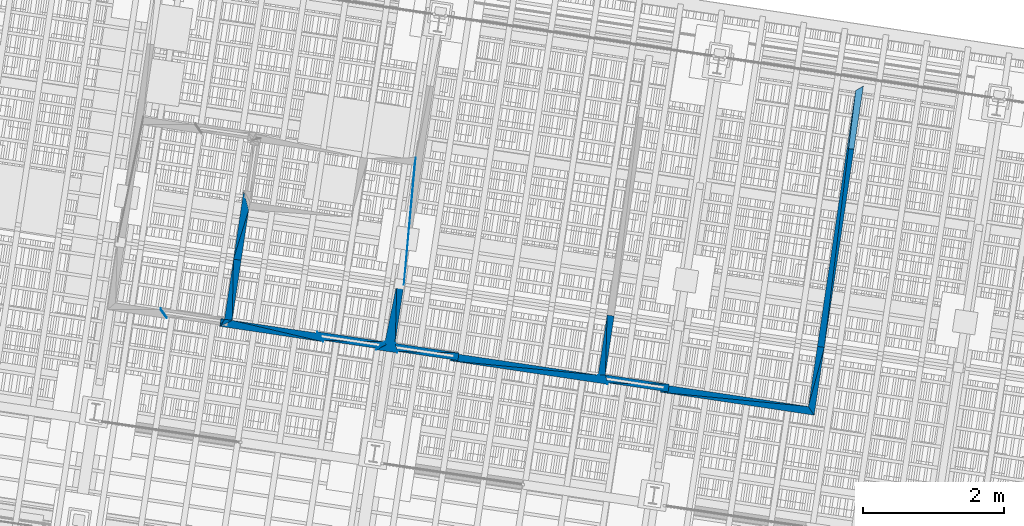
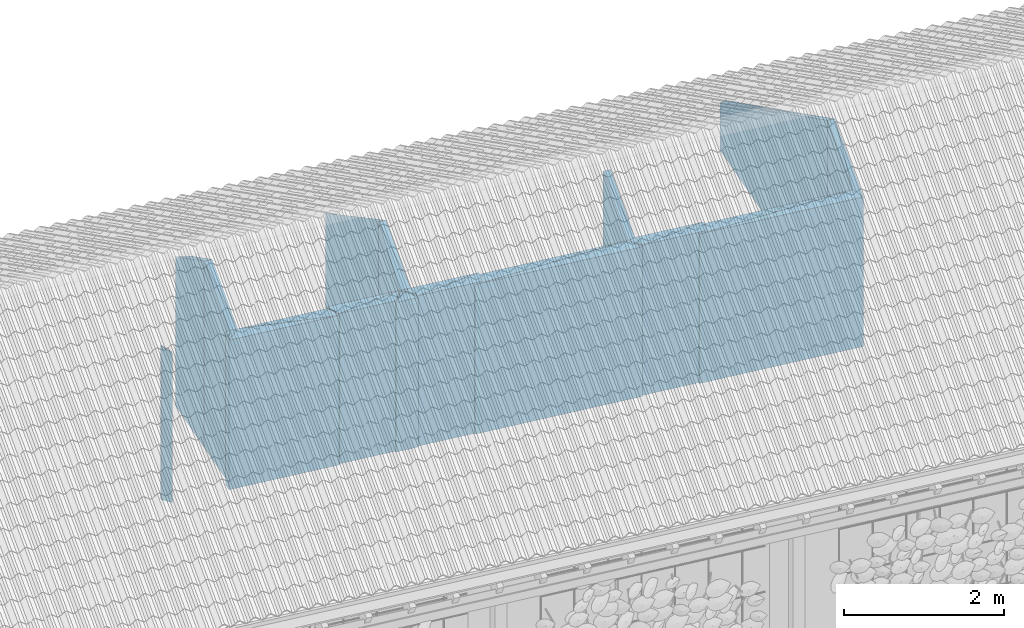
# One storey, part 124 of 131: 40 walls.
"""IFC4 building model written with IfcOpenShell, lengths in metres."""

import ifcopenshell
import ifcopenshell.guid

model = None  # the IFC model being written
_history = None  # IfcOwnerHistory: only IFC2X3 demands one
_inside = {}  # id of a spatial element -> (the spatial element, [elements in it])
_under = {}  # id of a project, library or spatial element -> (it, [spatial elements below it])
_declared = {}  # id of a project -> (the project, [libraries it declares])
_typed = {}  # id of a type object -> (the type object, [elements of that type])
_made_of = {}  # id of a material, layer set ... -> (it, [elements and type objects made of it])


def new_model(schema):
    """Start an empty IFC model of exactly this schema.

    Asked for "IFC4X3", IfcOpenShell would pick the latest addendum, in which some entities
    have other attributes; the version numbers below select the first issue.
    IFC2X3 requires an IfcOwnerHistory on every rooted entity: one is made here for all.
    """
    global model, _history
    if schema == "IFC4X3":
        model = ifcopenshell.file(schema_version=(4, 3, 0, 0))
    else:
        model = ifcopenshell.file(schema=schema)
    _inside.clear()
    _under.clear()
    _declared.clear()
    _typed.clear()
    _made_of.clear()
    _history = None
    if model.schema == "IFC2X3":
        org = make("IfcOrganization", Name="unknown")
        user = make(
            "IfcPersonAndOrganization",
            ThePerson=make("IfcPerson", FamilyName="unknown"),
            TheOrganization=org,
        )
        app = make(
            "IfcApplication",
            ApplicationDeveloper=org,
            Version="unknown",
            ApplicationFullName="unknown",
            ApplicationIdentifier="unknown",
        )
        _history = make(
            "IfcOwnerHistory",
            OwningUser=user,
            OwningApplication=app,
            ChangeAction="ADDED",
            CreationDate=0,
        )
    return model


def make(cls, **values):
    """One entity of the class cls with the attributes given. An attribute that is None is left unset."""
    return model.create_entity(
        cls, **{name: value for name, value in values.items() if value is not None}
    )


def rooted(cls, **values):
    """An entity with a GlobalId (a new one), such as an element, a storey or a relation."""
    return make(cls, GlobalId=ifcopenshell.guid.new(), OwnerHistory=_history, **values)


def si_unit(unit_type, name, prefix=None):
    """IfcSIUnit, for example si_unit("LENGTHUNIT", "METRE", prefix="MILLI")."""
    return make("IfcSIUnit", UnitType=unit_type, Prefix=prefix, Name=name)


def assignment(units):
    """IfcUnitAssignment: the units of a project."""
    return None if units is None else make("IfcUnitAssignment", Units=units)


def point(xyz):
    """IfcCartesianPoint."""
    return None if xyz is None else make("IfcCartesianPoint", Coordinates=xyz)


def direction(xyz):
    """IfcDirection."""
    return None if xyz is None else make("IfcDirection", DirectionRatios=xyz)


def frame(location, z_axis=None, x_axis=None):
    """IfcAxis2Placement3D, a coordinate frame: its origin and axes. An axis left out is left unset."""
    return make(
        "IfcAxis2Placement3D",
        Location=point(location),
        Axis=direction(z_axis),
        RefDirection=direction(x_axis),
    )


def origin_with_axes():
    """The frame at (0, 0, 0) with the z axis (0, 0, 1) and the x axis (1, 0, 0) written out."""
    return frame((0.0, 0.0, 0.0), z_axis=(0.0, 0.0, 1.0), x_axis=(1.0, 0.0, 0.0))


def place(relative_to, where):
    """IfcLocalPlacement: puts the frame where relative to a parent placement (None: the world)."""
    return make(
        "IfcLocalPlacement", PlacementRelTo=relative_to, RelativePlacement=where
    )


def context(
    kind, dimensions, precision=None, world=None, true_north=None, identifier=None
):
    """IfcGeometricRepresentationContext, for example the 3D "Model" context."""
    return make(
        "IfcGeometricRepresentationContext",
        ContextIdentifier=identifier,
        ContextType=kind,
        CoordinateSpaceDimension=dimensions,
        Precision=precision,
        WorldCoordinateSystem=world,
        TrueNorth=true_north,
    )


def subcontext(parent, identifier, kind, view, scale=None):
    """IfcGeometricRepresentationSubContext, for example "Body" below "Model"."""
    return make(
        "IfcGeometricRepresentationSubContext",
        ContextIdentifier=identifier,
        ContextType=kind,
        ParentContext=parent,
        TargetScale=scale,
        TargetView=view,
    )


def project(units=None, contexts=None):
    """IfcProject with its units and contexts."""
    return rooted(
        "IfcProject",
        Name="project",
        RepresentationContexts=contexts,
        UnitsInContext=assignment(units),
    )


def spatial(cls, under=None, at=None, **own):
    """A site, building, storey or space (cls), placed at a placement, below another one or the project."""
    s = rooted(cls, ObjectPlacement=at, **own)
    if under is not None:
        _under.setdefault(under.id(), (under, []))[1].append(s)
    return s


def point_list(points):
    """IfcCartesianPointList2D or 3D."""
    cls = (
        "IfcCartesianPointList2D" if len(points[0]) == 2 else "IfcCartesianPointList3D"
    )
    return make(cls, CoordList=points)


def polygons(points, faces, closed=None, point_numbers=None):
    """IfcPolygonalFaceSet: a face is its outer loop, then its inner loops; points numbered from 1."""
    made = []
    for loops in faces:
        if len(loops) == 1:
            made.append(make("IfcIndexedPolygonalFace", CoordIndex=loops[0]))
        else:
            made.append(
                make(
                    "IfcIndexedPolygonalFaceWithVoids",
                    CoordIndex=loops[0],
                    InnerCoordIndices=loops[1:],
                )
            )
    return make(
        "IfcPolygonalFaceSet",
        Coordinates=point_list(points),
        Closed=closed,
        Faces=made,
        PnIndex=point_numbers,
    )


def shape(context_of_items, identifier, shape_type, items):
    """IfcShapeRepresentation: the items that make up one representation, for example the "Body"."""
    return make(
        "IfcShapeRepresentation",
        ContextOfItems=context_of_items,
        RepresentationIdentifier=identifier,
        RepresentationType=shape_type,
        Items=items,
    )


def material(Name=None, Category=None):
    """IfcMaterial."""
    return make("IfcMaterial", Name=Name, Category=Category)


def made_of(thing, what):
    """Note that an element or type object is made of a material, layer set ...; save() writes the relation."""
    if what is not None:
        _made_of.setdefault(what.id(), (what, []))[1].append(thing)
    return thing


def element(
    cls,
    number,
    at=None,
    inside=None,
    cuts=None,
    type_object=None,
    material=None,
    context=None,
    identifier="Body",
    shape_type=None,
    held_by="IfcProductDefinitionShape",
    body=None,
    shapes=None,
    **own,
):
    """One element of the class cls, such as IfcWall. Its Tag is "e" and its number.

    at: its placement. inside: the storey or other place that contains it. cuts: it is an
    opening in that element (IfcRelVoidsElement). A single representation is given by context,
    identifier, shape_type and body (its items); several are given by shapes. held_by: the class
    of the entity that holds the representations. save() writes the other relations.
    """
    e = rooted(cls, Tag="e%d" % number, ObjectPlacement=at, **own)
    if body is not None:
        shapes = [shape(context, identifier, shape_type, body)]
    if shapes is not None:
        e.Representation = make(held_by, Representations=shapes)
    if inside is not None:
        _inside.setdefault(inside.id(), (inside, []))[1].append(e)
    if cuts is not None:
        rooted(
            "IfcRelVoidsElement", RelatingBuildingElement=cuts, RelatedOpeningElement=e
        )
    if type_object is not None:
        _typed.setdefault(type_object.id(), (type_object, []))[1].append(e)
    return made_of(e, material)


def aggregate(whole, parts):
    """IfcRelAggregates: a whole, such as a stair, and the parts it consists of."""
    return rooted("IfcRelAggregates", RelatingObject=whole, RelatedObjects=parts)


def save(model, path):
    """Write the relations noted so far, then the file.

    IfcRelAggregates (storeys below a building ...), IfcRelContainedInSpatialStructure (elements
    in a storey), IfcRelDefinesByType, IfcRelAssociatesMaterial and IfcRelDeclares: one each for
    every whole, place, type object, material and project.
    """
    for whole, parts in _under.values():
        aggregate(whole, parts)
    for where, things in _inside.values():
        rooted(
            "IfcRelContainedInSpatialStructure",
            RelatedElements=things,
            RelatingStructure=where,
        )
    for kind, things in _typed.values():
        rooted("IfcRelDefinesByType", RelatedObjects=things, RelatingType=kind)
    for what, things in _made_of.values():
        rooted("IfcRelAssociatesMaterial", RelatedObjects=things, RelatingMaterial=what)
    for by, libraries in _declared.values():
        rooted("IfcRelDeclares", RelatingContext=by, RelatedDefinitions=libraries)
    model.write(path)


model = new_model("IFC4")

# Units and contexts
model_context = context("Model", 3, precision=1e-05, world=origin_with_axes(), true_north=direction((0.0, 1.0)))
body_context = subcontext(model_context, "Body", "Model", "MODEL_VIEW")
ifc_project = project(units=[si_unit("VOLUMEUNIT", "CUBIC_METRE"), si_unit("LENGTHUNIT", "METRE"), si_unit("AREAUNIT", "SQUARE_METRE")], contexts=[model_context])

# Site, building, storey
site_placement = place(None, origin_with_axes())
site = spatial("IfcSite", under=ifc_project, at=site_placement, Name="Lares · Rua das Mercês · artigo 4771")
building_placement = place(site_placement, frame((15.0, 9.7, 14.65), z_axis=(0.0, 0.0, 1.0), x_axis=(0.989015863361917, -0.147809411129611, 0.0)))
building = spatial("IfcBuilding", under=site, at=building_placement, Name="Casa Sobreposta")
storey_placement = place(building_placement, origin_with_axes())
storey = spatial("IfcBuildingStorey", under=building, at=storey_placement, Name="00 · Habitação e estacionamento", Elevation=14.65)

# Walls
ifc_material = material(Name="OSB", Category="wood")
wall_1_placement = place(storey_placement, origin_with_axes())
element("IfcWall", 1, at=wall_1_placement, inside=storey, material=ifc_material, Name="Divisória · prolongamento até ao forro", context=body_context, shape_type="Tessellation", body=[
    polygons([(8.80999999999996, 1.57999999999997, 3.05), (8.80999999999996, 1.60006813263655, 3.05), (8.70456930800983, 1.68999999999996, 3.05), (8.80999999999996, 1.57999999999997, 5.32917893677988), (8.80999999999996, 1.60006813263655, 5.34076527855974), (8.70456930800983, 1.68999999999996, 5.39268746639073)], [[[3, 2, 1]], [[4, 5, 6]], [[1, 2, 5, 4]], [[2, 3, 6, 5]], [[3, 1, 4, 6]]]),
])
wall_2_placement = place(storey_placement, origin_with_axes())
element("IfcWall", 2, at=wall_2_placement, inside=storey, material=ifc_material, Name="Divisória · prolongamento até ao forro", context=body_context, shape_type="Tessellation", body=[
    polygons([(8.70457262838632, 1.71008556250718, 3.05), (8.70456930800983, 1.68999999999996, 3.05), (8.80999999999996, 1.60006813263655, 3.05), (8.70457262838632, 1.71008556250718, 5.4042838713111), (8.70456930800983, 1.68999999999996, 5.39268746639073), (8.80999999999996, 1.60006813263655, 5.34076527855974)], [[[3, 2, 1]], [[4, 5, 6]], [[1, 2, 5, 4]], [[2, 3, 6, 5]], [[3, 1, 4, 6]]]),
])
wall_3_placement = place(storey_placement, origin_with_axes())
element("IfcWall", 3, at=wall_3_placement, inside=storey, material=ifc_material, Name="Divisória · prolongamento até ao forro", context=body_context, shape_type="Tessellation", body=[
    polygons([(9.61999999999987, 2.55, 3.05), (9.61999999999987, 1.68999999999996, 3.05), (9.72999999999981, 1.68999999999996, 3.05), (9.61999999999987, 2.55, 5.88920869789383), (9.61999999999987, 1.68999999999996, 5.39268746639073), (9.72999999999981, 1.68999999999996, 5.39268746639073)], [[[3, 2, 1]], [[4, 5, 6]], [[1, 2, 5, 4]], [[2, 3, 6, 5]], [[3, 1, 4, 6]]]),
])
wall_4_placement = place(storey_placement, origin_with_axes())
element("IfcWall", 4, at=wall_4_placement, inside=storey, material=ifc_material, Name="Divisória · prolongamento até ao forro", context=body_context, shape_type="Tessellation", body=[
    polygons([(9.61999999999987, 2.55, 3.05), (9.72999999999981, 1.68999999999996, 3.05), (9.72999999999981, 2.55, 3.05), (9.61999999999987, 2.55, 5.88920869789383), (9.72999999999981, 1.68999999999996, 5.39268746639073), (9.72999999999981, 2.55, 5.88920869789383)], [[[3, 2, 1]], [[4, 5, 6]], [[1, 2, 5, 4]], [[2, 3, 6, 5]], [[3, 1, 4, 6]]]),
])
wall_5_placement = place(storey_placement, origin_with_axes())
element("IfcWall", 5, at=wall_5_placement, inside=storey, material=ifc_material, Name="Divisória · prolongamento até ao forro", context=body_context, shape_type="Tessellation", body=[
    polygons([(11.96, 2.55, 3.05), (11.9147422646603, 1.70994155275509, 3.05), (12.06, 1.70993390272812, 3.05), (11.96, 2.55, 5.88920869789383), (11.9147422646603, 1.70994155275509, 5.40420072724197), (12.06, 1.70993390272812, 5.40419631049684)], [[[3, 2, 1]], [[4, 5, 6]], [[1, 2, 5, 4]], [[2, 3, 6, 5]], [[3, 1, 4, 6]]]),
])
wall_6_placement = place(storey_placement, origin_with_axes())
element("IfcWall", 6, at=wall_6_placement, inside=storey, material=ifc_material, Name="Divisória · prolongamento até ao forro", context=body_context, shape_type="Tessellation", body=[
    polygons([(11.96, 2.55, 3.05), (12.06, 1.70993390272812, 3.05), (12.06, 2.55, 3.05), (11.96, 2.55, 5.88920869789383), (12.06, 1.70993390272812, 5.40419631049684), (12.06, 2.55, 5.88920869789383)], [[[3, 2, 1]], [[4, 5, 6]], [[1, 2, 5, 4]], [[2, 3, 6, 5]], [[3, 1, 4, 6]]]),
])
wall_7_placement = place(storey_placement, origin_with_axes())
element("IfcWall", 7, at=wall_7_placement, inside=storey, material=ifc_material, Name="Divisória · prolongamento até ao forro", context=body_context, shape_type="Tessellation", body=[
    polygons([(12.9746138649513, 1.7100856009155, 3.05), (12.06, 1.70993390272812, 3.05), (12.1099999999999, 1.59994219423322, 3.05), (12.9746138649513, 1.7100856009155, 5.40428389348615), (12.06, 1.70993390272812, 5.40419631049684), (12.1099999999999, 1.59994219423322, 5.34069256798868)], [[[3, 2, 1]], [[4, 5, 6]], [[1, 2, 5, 4]], [[2, 3, 6, 5]], [[3, 1, 4, 6]]]),
])
wall_8_placement = place(storey_placement, origin_with_axes())
element("IfcWall", 8, at=wall_8_placement, inside=storey, material=ifc_material, Name="Divisória · prolongamento até ao forro", context=body_context, shape_type="Tessellation", body=[
    polygons([(12.9746138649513, 1.7100856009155, 3.05), (12.1099999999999, 1.59994219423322, 3.05), (12.974632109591, 1.60008560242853, 3.05), (12.9746138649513, 1.7100856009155, 5.40428389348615), (12.1099999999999, 1.59994219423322, 5.34069256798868), (12.974632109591, 1.60008560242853, 5.34077536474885)], [[[3, 2, 1]], [[4, 5, 6]], [[1, 2, 5, 4]], [[2, 3, 6, 5]], [[3, 1, 4, 6]]]),
])
wall_9_placement = place(storey_placement, origin_with_axes())
element("IfcWall", 9, at=wall_9_placement, inside=storey, material=ifc_material, Name="Divisória · prolongamento até ao forro", context=body_context, shape_type="Tessellation", body=[
    polygons([(12.1099999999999, 1.57999999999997, 3.05), (12.1099999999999, 1.59994219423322, 3.05), (11.96, 1.68999999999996, 3.05), (12.1099999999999, 1.57999999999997, 5.32917893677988), (12.1099999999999, 1.59994219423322, 5.34069256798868), (11.96, 1.68999999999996, 5.39268746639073)], [[[3, 2, 1]], [[4, 5, 6]], [[1, 2, 5, 4]], [[2, 3, 6, 5]], [[3, 1, 4, 6]]]),
])
wall_10_placement = place(storey_placement, origin_with_axes())
element("IfcWall", 10, at=wall_10_placement, inside=storey, material=ifc_material, Name="Divisória · prolongamento até ao forro", context=body_context, shape_type="Tessellation", body=[
    polygons([(12.1099999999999, 1.57999999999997, 3.05), (11.96, 1.68999999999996, 3.05), (11.8099999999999, 1.57999999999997, 3.05), (12.1099999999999, 1.57999999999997, 5.32917893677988), (11.96, 1.68999999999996, 5.39268746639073), (11.8099999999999, 1.57999999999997, 5.32917893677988)], [[[3, 2, 1]], [[4, 5, 6]], [[1, 2, 5, 4]], [[2, 3, 6, 5]], [[3, 1, 4, 6]]]),
])
wall_11_placement = place(storey_placement, origin_with_axes())
element("IfcWall", 11, at=wall_11_placement, inside=storey, material=ifc_material, Name="Divisória · prolongamento até ao forro", context=body_context, shape_type="Tessellation", body=[
    polygons([(11.8099999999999, 1.57999999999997, 3.05), (11.96, 1.68999999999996, 3.05), (11.9147393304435, 1.68999999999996, 3.05), (11.8099999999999, 1.57999999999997, 5.32917893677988), (11.96, 1.68999999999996, 5.39268746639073), (11.9147393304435, 1.68999999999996, 5.39268746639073)], [[[3, 2, 1]], [[4, 5, 6]], [[1, 2, 5, 4]], [[2, 3, 6, 5]], [[3, 1, 4, 6]]]),
])
wall_12_placement = place(storey_placement, origin_with_axes())
element("IfcWall", 12, at=wall_12_placement, inside=storey, material=ifc_material, Name="Divisória · prolongamento até ao forro", context=body_context, shape_type="Tessellation", body=[
    polygons([(11.8099999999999, 1.57999999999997, 3.05), (11.9147393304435, 1.68999999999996, 3.05), (11.8099999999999, 1.59995696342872, 3.05), (11.8099999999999, 1.57999999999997, 5.32917893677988), (11.9147393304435, 1.68999999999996, 5.39268746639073), (11.8099999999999, 1.59995696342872, 5.34070109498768)], [[[3, 2, 1]], [[4, 5, 6]], [[1, 2, 5, 4]], [[2, 3, 6, 5]], [[3, 1, 4, 6]]]),
])
wall_13_placement = place(storey_placement, origin_with_axes())
element("IfcWall", 13, at=wall_13_placement, inside=storey, material=ifc_material, Name="Divisória · prolongamento até ao forro", context=body_context, shape_type="Tessellation", body=[
    polygons([(11.05, 1.57999999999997, 3.05), (11.05, 1.60006879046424, 3.05), (10.9446622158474, 1.68999999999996, 3.05), (11.05, 1.57999999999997, 5.32917893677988), (11.05, 1.60006879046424, 5.34076565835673), (10.9446622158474, 1.68999999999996, 5.39268746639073)], [[[3, 2, 1]], [[4, 5, 6]], [[1, 2, 5, 4]], [[2, 3, 6, 5]], [[3, 1, 4, 6]]]),
])
wall_14_placement = place(storey_placement, origin_with_axes())
element("IfcWall", 14, at=wall_14_placement, inside=storey, material=ifc_material, Name="Divisória · prolongamento até ao forro", context=body_context, shape_type="Tessellation", body=[
    polygons([(11.05, 1.57999999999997, 3.05), (10.9446622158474, 1.68999999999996, 3.05), (9.72999999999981, 1.68999999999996, 3.05), (11.05, 1.57999999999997, 5.32917893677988), (10.9446622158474, 1.68999999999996, 5.39268746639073), (9.72999999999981, 1.68999999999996, 5.39268746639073)], [[[3, 2, 1]], [[4, 5, 6]], [[1, 2, 5, 4]], [[2, 3, 6, 5]], [[3, 1, 4, 6]]]),
])
wall_15_placement = place(storey_placement, origin_with_axes())
element("IfcWall", 15, at=wall_15_placement, inside=storey, material=ifc_material, Name="Divisória · prolongamento até ao forro", context=body_context, shape_type="Tessellation", body=[
    polygons([(11.05, 1.57999999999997, 3.05), (9.72999999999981, 1.68999999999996, 3.05), (9.56999999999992, 1.57999999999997, 3.05), (11.05, 1.57999999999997, 5.32917893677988), (9.72999999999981, 1.68999999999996, 5.39268746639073), (9.56999999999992, 1.57999999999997, 5.32917893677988)], [[[3, 2, 1]], [[4, 5, 6]], [[1, 2, 5, 4]], [[2, 3, 6, 5]], [[3, 1, 4, 6]]]),
])
wall_16_placement = place(storey_placement, origin_with_axes())
element("IfcWall", 16, at=wall_16_placement, inside=storey, material=ifc_material, Name="Divisória · prolongamento até ao forro", context=body_context, shape_type="Tessellation", body=[
    polygons([(9.56999999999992, 1.57999999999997, 3.05), (9.72999999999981, 1.68999999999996, 3.05), (9.61999999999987, 1.68999999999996, 3.05), (9.56999999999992, 1.57999999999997, 5.32917893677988), (9.72999999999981, 1.68999999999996, 5.39268746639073), (9.61999999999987, 1.68999999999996, 5.39268746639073)], [[[3, 2, 1]], [[4, 5, 6]], [[1, 2, 5, 4]], [[2, 3, 6, 5]], [[3, 1, 4, 6]]]),
])
wall_17_placement = place(storey_placement, origin_with_axes())
element("IfcWall", 17, at=wall_17_placement, inside=storey, material=ifc_material, Name="Divisória · prolongamento até ao forro", context=body_context, shape_type="Tessellation", body=[
    polygons([(9.56999999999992, 1.57999999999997, 3.05), (9.61999999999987, 1.68999999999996, 3.05), (9.56999999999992, 1.68999999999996, 3.05), (9.56999999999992, 1.57999999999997, 5.32917893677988), (9.61999999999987, 1.68999999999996, 5.39268746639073), (9.56999999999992, 1.68999999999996, 5.39268746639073)], [[[3, 2, 1]], [[4, 5, 6]], [[1, 2, 5, 4]], [[2, 3, 6, 5]], [[3, 1, 4, 6]]]),
])
wall_18_placement = place(storey_placement, origin_with_axes())
element("IfcWall", 18, at=wall_18_placement, inside=storey, material=ifc_material, Name="Divisória · prolongamento até ao forro", context=body_context, shape_type="Tessellation", body=[
    polygons([(10.9446651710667, 1.71008429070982, 3.05), (10.9446622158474, 1.68999999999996, 3.05), (11.05, 1.60006879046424, 3.05), (10.9446651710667, 1.71008429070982, 5.40428313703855), (10.9446622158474, 1.68999999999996, 5.39268746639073), (11.05, 1.60006879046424, 5.34076565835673)], [[[3, 2, 1]], [[4, 5, 6]], [[1, 2, 5, 4]], [[2, 3, 6, 5]], [[3, 1, 4, 6]]]),
])
wall_19_placement = place(storey_placement, origin_with_axes())
element("IfcWall", 19, at=wall_19_placement, inside=storey, material=ifc_material, Name="Divisória · prolongamento até ao forro", context=body_context, shape_type="Tessellation", body=[
    polygons([(10.9446651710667, 1.71008429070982, 3.05), (11.05, 1.60006879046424, 3.05), (11.9147422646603, 1.70994155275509, 3.05), (10.9446651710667, 1.71008429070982, 5.40428313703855), (11.05, 1.60006879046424, 5.34076565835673), (11.9147422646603, 1.70994155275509, 5.40420072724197)], [[[3, 2, 1]], [[4, 5, 6]], [[1, 2, 5, 4]], [[2, 3, 6, 5]], [[3, 1, 4, 6]]]),
])
wall_20_placement = place(storey_placement, origin_with_axes())
element("IfcWall", 20, at=wall_20_placement, inside=storey, material=ifc_material, Name="Divisória · prolongamento até ao forro", context=body_context, shape_type="Tessellation", body=[
    polygons([(11.9147422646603, 1.70994155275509, 3.05), (11.05, 1.60006879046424, 3.05), (11.8099999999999, 1.59995696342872, 3.05), (11.9147422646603, 1.70994155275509, 5.40420072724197), (11.05, 1.60006879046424, 5.34076565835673), (11.8099999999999, 1.59995696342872, 5.34070109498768)], [[[3, 2, 1]], [[4, 5, 6]], [[1, 2, 5, 4]], [[2, 3, 6, 5]], [[3, 1, 4, 6]]]),
])
wall_21_placement = place(storey_placement, origin_with_axes())
element("IfcWall", 21, at=wall_21_placement, inside=storey, material=ifc_material, Name="Divisória · prolongamento até ao forro", context=body_context, shape_type="Tessellation", body=[
    polygons([(11.9147422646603, 1.70994155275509, 3.05), (11.8099999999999, 1.59995696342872, 3.05), (11.9147393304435, 1.68999999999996, 3.05), (11.9147422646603, 1.70994155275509, 5.40420072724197), (11.8099999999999, 1.59995696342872, 5.34070109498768), (11.9147393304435, 1.68999999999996, 5.39268746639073)], [[[3, 2, 1]], [[4, 5, 6]], [[1, 2, 5, 4]], [[2, 3, 6, 5]], [[3, 1, 4, 6]]]),
])
wall_22_placement = place(storey_placement, origin_with_axes())
element("IfcWall", 22, at=wall_22_placement, inside=storey, material=ifc_material, Name="Divisória · prolongamento até ao forro", context=body_context, shape_type="Tessellation", body=[
    polygons([(11.9147422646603, 1.70994155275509, 3.05), (11.96, 1.68999999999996, 3.05), (12.06, 1.70993390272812, 3.05), (11.9147422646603, 1.70994155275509, 5.40420072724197), (11.96, 1.68999999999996, 5.39268746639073), (12.06, 1.70993390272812, 5.40419631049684)], [[[3, 2, 1]], [[4, 5, 6]], [[1, 2, 5, 4]], [[2, 3, 6, 5]], [[3, 1, 4, 6]]]),
])
wall_23_placement = place(storey_placement, origin_with_axes())
element("IfcWall", 23, at=wall_23_placement, inside=storey, material=ifc_material, Name="Divisória · prolongamento até ao forro", context=body_context, shape_type="Tessellation", body=[
    polygons([(12.06, 1.70993390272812, 3.05), (11.96, 1.68999999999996, 3.05), (12.1099999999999, 1.59994219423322, 3.05), (12.06, 1.70993390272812, 5.40419631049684), (11.96, 1.68999999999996, 5.39268746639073), (12.1099999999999, 1.59994219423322, 5.34069256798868)], [[[3, 2, 1]], [[4, 5, 6]], [[1, 2, 5, 4]], [[2, 3, 6, 5]], [[3, 1, 4, 6]]]),
])
wall_24_placement = place(storey_placement, origin_with_axes())
element("IfcWall", 24, at=wall_24_placement, inside=storey, material=ifc_material, Name="Divisória · prolongamento até ao forro", context=body_context, shape_type="Tessellation", body=[
    polygons([(12.06, 2.55, 3.05), (11.96, 4.35299999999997, 3.05), (11.96, 4.24299999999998, 3.05), (12.06, 2.55, 5.88920869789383), (11.96, 4.35299999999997, 4.84824616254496), (11.96, 4.24299999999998, 4.91175469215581)], [[[3, 2, 1]], [[4, 5, 6]], [[1, 2, 5, 4]], [[2, 3, 6, 5]], [[3, 1, 4, 6]]]),
])
wall_25_placement = place(storey_placement, origin_with_axes())
element("IfcWall", 25, at=wall_25_placement, inside=storey, material=ifc_material, Name="Divisória · prolongamento até ao forro", context=body_context, shape_type="Tessellation", body=[
    polygons([(9.72999999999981, 2.55, 3.05), (9.72999999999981, 3.27300000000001, 3.05), (9.61999999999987, 2.55, 3.05), (9.72999999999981, 2.55, 5.88920869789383), (9.72999999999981, 3.27300000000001, 5.47178445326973), (9.61999999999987, 2.55, 5.88920869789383)], [[[3, 2, 1]], [[4, 5, 6]], [[1, 2, 5, 4]], [[2, 3, 6, 5]], [[3, 1, 4, 6]]]),
])
wall_26_placement = place(storey_placement, origin_with_axes())
element("IfcWall", 26, at=wall_26_placement, inside=storey, material=ifc_material, Name="Divisória · prolongamento até ao forro", context=body_context, shape_type="Tessellation", body=[
    polygons([(9.61999999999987, 2.55, 3.05), (9.72999999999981, 3.27300000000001, 3.05), (9.61999999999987, 3.53299999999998, 3.05), (9.61999999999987, 2.55, 5.88920869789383), (9.72999999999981, 3.27300000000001, 5.47178445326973), (9.61999999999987, 3.53299999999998, 5.32167338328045)], [[[3, 2, 1]], [[4, 5, 6]], [[1, 2, 5, 4]], [[2, 3, 6, 5]], [[3, 1, 4, 6]]]),
])
wall_27_placement = place(storey_placement, origin_with_axes())
element("IfcWall", 27, at=wall_27_placement, inside=storey, material=ifc_material, Name="Divisória · prolongamento até ao forro", context=body_context, shape_type="Tessellation", body=[
    polygons([(12.8699999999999, 1.68999999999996, 3.05), (12.8699999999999, 1.57999999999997, 3.05), (14.97, 1.68999999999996, 3.05), (12.8699999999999, 1.68999999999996, 5.39268746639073), (12.8699999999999, 1.57999999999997, 5.32917893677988), (14.97, 1.68999999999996, 5.39268746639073)], [[[3, 2, 1]], [[4, 5, 6]], [[1, 2, 5, 4]], [[2, 3, 6, 5]], [[3, 1, 4, 6]]]),
])
wall_28_placement = place(storey_placement, origin_with_axes())
element("IfcWall", 28, at=wall_28_placement, inside=storey, material=ifc_material, Name="Divisória · prolongamento até ao forro", context=body_context, shape_type="Tessellation", body=[
    polygons([(14.97, 2.55, 3.05), (14.97, 1.68999999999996, 3.05), (15.07, 1.70993390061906, 3.05), (14.97, 2.55, 5.88920869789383), (14.97, 1.68999999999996, 5.39268746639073), (15.07, 1.70993390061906, 5.40419630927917)], [[[3, 2, 1]], [[4, 5, 6]], [[1, 2, 5, 4]], [[2, 3, 6, 5]], [[3, 1, 4, 6]]]),
])
wall_29_placement = place(storey_placement, origin_with_axes())
element("IfcWall", 29, at=wall_29_placement, inside=storey, material=ifc_material, Name="Divisória · prolongamento até ao forro", context=body_context, shape_type="Tessellation", body=[
    polygons([(14.97, 2.55, 3.05), (15.07, 1.70993390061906, 3.05), (15.07, 2.55, 3.05), (14.97, 2.55, 5.88920869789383), (15.07, 1.70993390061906, 5.40419630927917), (15.07, 2.55, 5.88920869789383)], [[[3, 2, 1]], [[4, 5, 6]], [[1, 2, 5, 4]], [[2, 3, 6, 5]], [[3, 1, 4, 6]]]),
])
wall_30_placement = place(storey_placement, origin_with_axes())
element("IfcWall", 30, at=wall_30_placement, inside=storey, material=ifc_material, Name="Divisória · prolongamento até ao forro", context=body_context, shape_type="Tessellation", body=[
    polygons([(15.9846265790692, 1.71008560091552, 3.05), (15.07, 1.70993390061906, 3.05), (15.1199999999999, 1.59994219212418, 3.05), (15.9846265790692, 1.71008560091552, 5.40428389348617), (15.07, 1.70993390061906, 5.40419630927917), (15.1199999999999, 1.59994219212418, 5.34069256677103)], [[[3, 2, 1]], [[4, 5, 6]], [[1, 2, 5, 4]], [[2, 3, 6, 5]], [[3, 1, 4, 6]]]),
])
wall_31_placement = place(storey_placement, origin_with_axes())
element("IfcWall", 31, at=wall_31_placement, inside=storey, material=ifc_material, Name="Divisória · prolongamento até ao forro", context=body_context, shape_type="Tessellation", body=[
    polygons([(15.9846265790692, 1.71008560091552, 3.05), (15.1199999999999, 1.59994219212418, 3.05), (15.9846448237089, 1.60008560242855, 3.05), (15.9846265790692, 1.71008560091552, 5.40428389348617), (15.1199999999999, 1.59994219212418, 5.34069256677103), (15.9846448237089, 1.60008560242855, 5.34077536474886)], [[[3, 2, 1]], [[4, 5, 6]], [[1, 2, 5, 4]], [[2, 3, 6, 5]], [[3, 1, 4, 6]]]),
])
wall_32_placement = place(storey_placement, origin_with_axes())
element("IfcWall", 32, at=wall_32_placement, inside=storey, material=ifc_material, Name="Divisória · prolongamento até ao forro", context=body_context, shape_type="Tessellation", body=[
    polygons([(15.1199999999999, 1.57999999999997, 3.05), (15.1199999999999, 1.59994219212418, 3.05), (14.97, 1.68999999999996, 3.05), (15.1199999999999, 1.57999999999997, 5.32917893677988), (15.1199999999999, 1.59994219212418, 5.34069256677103), (14.97, 1.68999999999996, 5.39268746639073)], [[[3, 2, 1]], [[4, 5, 6]], [[1, 2, 5, 4]], [[2, 3, 6, 5]], [[3, 1, 4, 6]]]),
])
wall_33_placement = place(storey_placement, origin_with_axes())
element("IfcWall", 33, at=wall_33_placement, inside=storey, material=ifc_material, Name="Divisória · prolongamento até ao forro", context=body_context, shape_type="Tessellation", body=[
    polygons([(15.1199999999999, 1.57999999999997, 3.05), (14.97, 1.68999999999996, 3.05), (12.8699999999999, 1.57999999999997, 3.05), (15.1199999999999, 1.57999999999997, 5.32917893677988), (14.97, 1.68999999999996, 5.39268746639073), (12.8699999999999, 1.57999999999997, 5.32917893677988)], [[[3, 2, 1]], [[4, 5, 6]], [[1, 2, 5, 4]], [[2, 3, 6, 5]], [[3, 1, 4, 6]]]),
])
wall_34_placement = place(storey_placement, origin_with_axes())
element("IfcWall", 34, at=wall_34_placement, inside=storey, material=ifc_material, Name="Divisória · prolongamento até ao forro", context=body_context, shape_type="Tessellation", body=[
    polygons([(14.97, 1.68999999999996, 3.05), (15.1199999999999, 1.59994219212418, 3.05), (15.07, 1.70993390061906, 3.05), (14.97, 1.68999999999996, 5.39268746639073), (15.1199999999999, 1.59994219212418, 5.34069256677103), (15.07, 1.70993390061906, 5.40419630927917)], [[[3, 2, 1]], [[4, 5, 6]], [[1, 2, 5, 4]], [[2, 3, 6, 5]], [[3, 1, 4, 6]]]),
])
wall_35_placement = place(storey_placement, origin_with_axes())
element("IfcWall", 35, at=wall_35_placement, inside=storey, material=ifc_material, Name="Divisória · prolongamento até ao forro", context=body_context, shape_type="Tessellation", body=[
    polygons([(15.8799999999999, 1.68999999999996, 3.05), (15.8799999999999, 1.57999999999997, 3.05), (17.98, 1.68999999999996, 3.05), (15.8799999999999, 1.68999999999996, 5.39268746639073), (15.8799999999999, 1.57999999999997, 5.32917893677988), (17.98, 1.68999999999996, 5.39268746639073)], [[[3, 2, 1]], [[4, 5, 6]], [[1, 2, 5, 4]], [[2, 3, 6, 5]], [[3, 1, 4, 6]]]),
])
wall_36_placement = place(storey_placement, origin_with_axes())
element("IfcWall", 36, at=wall_36_placement, inside=storey, material=ifc_material, Name="Divisória · prolongamento até ao forro", context=body_context, shape_type="Tessellation", body=[
    polygons([(17.98, 2.55, 3.05), (17.98, 1.68999999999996, 3.05), (18.0799999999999, 2.55, 3.05), (17.98, 2.55, 5.88920869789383), (17.98, 1.68999999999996, 5.39268746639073), (18.0799999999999, 2.55, 5.88920869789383)], [[[3, 2, 1]], [[4, 5, 6]], [[1, 2, 5, 4]], [[2, 3, 6, 5]], [[3, 1, 4, 6]]]),
])
wall_37_placement = place(storey_placement, origin_with_axes())
element("IfcWall", 37, at=wall_37_placement, inside=storey, material=ifc_material, Name="Divisória · prolongamento até ao forro", context=body_context, shape_type="Tessellation", body=[
    polygons([(18.0799999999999, 2.55, 3.05), (17.98, 1.68999999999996, 3.05), (18.0799999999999, 1.57999999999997, 3.05), (18.0799999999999, 2.55, 5.88920869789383), (17.98, 1.68999999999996, 5.39268746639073), (18.0799999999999, 1.57999999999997, 5.32917893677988)], [[[3, 2, 1]], [[4, 5, 6]], [[1, 2, 5, 4]], [[2, 3, 6, 5]], [[3, 1, 4, 6]]]),
])
wall_38_placement = place(storey_placement, origin_with_axes())
element("IfcWall", 38, at=wall_38_placement, inside=storey, material=ifc_material, Name="Divisória · prolongamento até ao forro", context=body_context, shape_type="Tessellation", body=[
    polygons([(18.0799999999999, 1.57999999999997, 3.05), (17.98, 1.68999999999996, 3.05), (15.8799999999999, 1.57999999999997, 3.05), (18.0799999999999, 1.57999999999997, 5.32917893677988), (17.98, 1.68999999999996, 5.39268746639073), (15.8799999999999, 1.57999999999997, 5.32917893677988)], [[[3, 2, 1]], [[4, 5, 6]], [[1, 2, 5, 4]], [[2, 3, 6, 5]], [[3, 1, 4, 6]]]),
])
wall_39_placement = place(storey_placement, origin_with_axes())
element("IfcWall", 39, at=wall_39_placement, inside=storey, material=ifc_material, Name="Divisória · prolongamento até ao forro", context=body_context, shape_type="Tessellation", body=[
    polygons([(17.98, 6.21236749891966, 3.05), (17.98, 2.55, 3.05), (18.0799999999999, 2.55, 3.05), (17.98, 6.21236749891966, 3.77473983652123), (17.98, 2.55, 5.88920869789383), (18.0799999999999, 2.55, 5.88920869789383)], [[[3, 2, 1]], [[4, 5, 6]], [[1, 2, 5, 4]], [[2, 3, 6, 5]], [[3, 1, 4, 6]]]),
])
wall_40_placement = place(storey_placement, origin_with_axes())
element("IfcWall", 40, at=wall_40_placement, inside=storey, material=ifc_material, Name="Divisória · prolongamento até ao forro", context=body_context, shape_type="Tessellation", body=[
    polygons([(17.98, 6.21236749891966, 3.05), (18.0799999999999, 2.55, 3.05), (18.0799999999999, 6.29570083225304, 3.05), (17.98, 6.21236749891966, 3.77473983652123), (18.0799999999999, 2.55, 5.88920869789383), (18.0799999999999, 6.29570083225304, 3.72662731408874)], [[[3, 2, 1]], [[4, 5, 6]], [[1, 2, 5, 4]], [[2, 3, 6, 5]], [[3, 1, 4, 6]]]),
])

save(model, "model.ifc")
